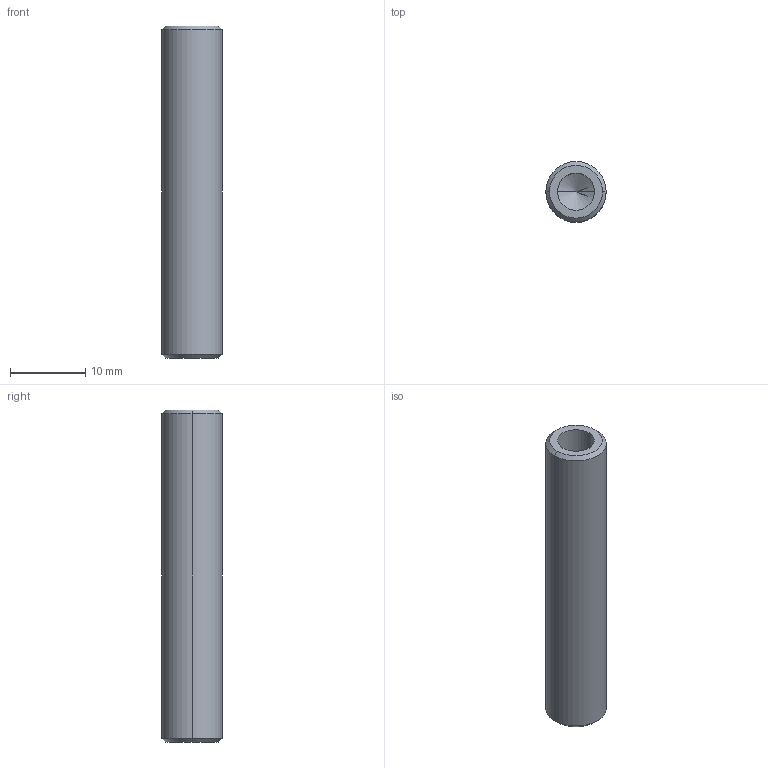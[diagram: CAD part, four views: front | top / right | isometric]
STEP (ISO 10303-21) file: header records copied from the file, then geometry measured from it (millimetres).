
FILE_DESCRIPTION (( 'STEP AP214' ), '1' );
FILE_NAME ('GZ29.08_V1弹簧轴.STEP', '2021-07-06T07:09:06', ( '微软中国' ), ( 'Microsoft' ), 'SwSTEP 2.0', 'SolidWorks 2017', '' );
FILE_SCHEMA (( 'AUTOMOTIVE_DESIGN' ));
Length unit declared in the file: millimetre
Products named in the file (1): GZ29.08_V1粟銅粣
Bounding box: 8 x 8 x 44 mm (x, y, z)
Volume: 1541.4 mm3; surface area: 1722.5 mm2
Topology: 1 solids, 1 shells, 16 faces, 34 edges, 18 vertices
Faces by surface type: cone 8, cylinder 6, plane 2
Entity records: 480 total; most frequent: DIRECTION 80, CARTESIAN_POINT 65, ORIENTED_EDGE 60, AXIS2_PLACEMENT_3D 33, EDGE_CURVE 30, EDGE_LOOP 18, VERTEX_POINT 18, CIRCLE 16
